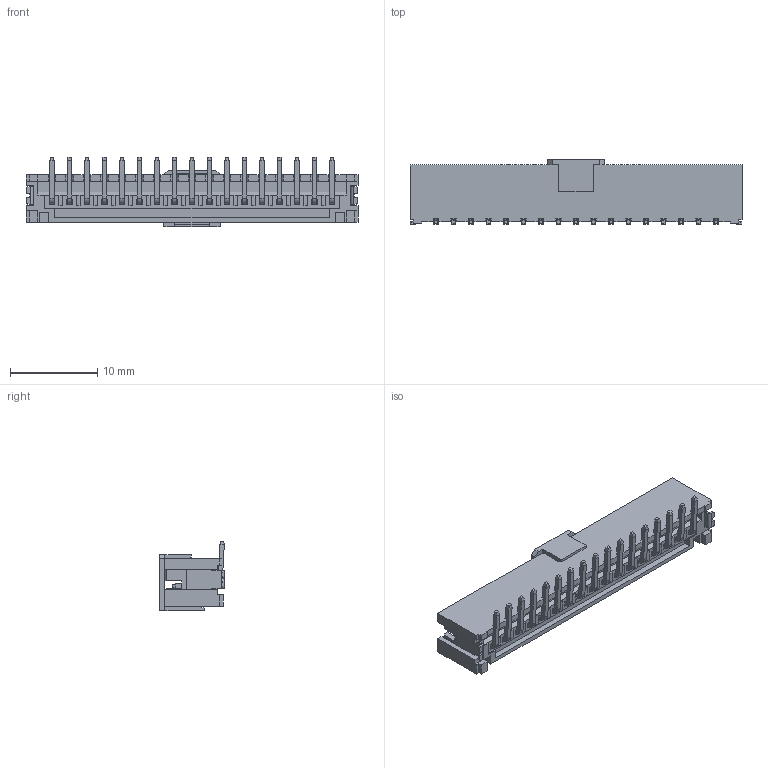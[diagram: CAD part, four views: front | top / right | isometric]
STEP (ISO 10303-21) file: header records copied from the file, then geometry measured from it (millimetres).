
FILE_DESCRIPTION(/* description */ (''),/* implementation_level */ '2;1');
FILE_NAME(/* name */ 'E:\工作文件\现出货3D文件\01温达\PH\HC-PH-NALT-01(立贴-HCTL)\HC-PH-17ALT-01(立贴-HCTL).stp',/* time_stamp */ '2024-02-26T15:32:13+08:00',/* author */ ('admin'),/* organization */ (''),/* preprocessor_version */ 'ST-DEVELOPER v18.1',/* originating_system */ 'Autodesk Inventor 2021',/* authorisation */ '');
FILE_SCHEMA (('AUTOMOTIVE_DESIGN { 1 0 10303 214 3 1 1 }'));
Length unit declared in the file: millimetre
Products named in the file (1): HC-PH-3ALT-01(立贴-HCTL)
Bounding box: 37.95 x 7.38 x 8 mm (x, y, z)
Volume: 551.4 mm3; surface area: 2016.5 mm2
Topology: 2 solids, 2 shells, 1012 faces, 2661 edges, 1696 vertices
Faces by surface type: plane 893, cylinder 119
Entity records: 30978 total; most frequent: CARTESIAN_POINT 5370, ORIENTED_EDGE 5322, DIRECTION 4929, EDGE_CURVE 2661, LINE 2419, VECTOR 2419, VERTEX_POINT 1696, AXIS2_PLACEMENT_3D 1255
